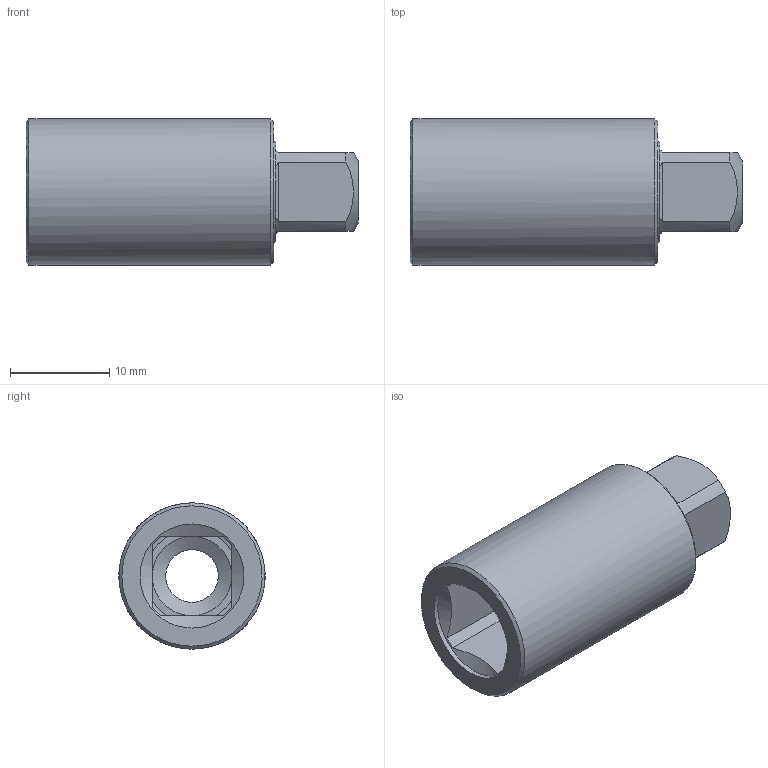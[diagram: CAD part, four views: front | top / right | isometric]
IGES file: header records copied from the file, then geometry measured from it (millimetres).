
Global section: file name: 2028818_A_PSEN ml DHM extension; native system: Autodesk Inventor 2020; preprocessor: unknown; author: jebe; date: 20200127.083531; units: millimetre
Bounding box: 33.5 x 14.73 x 14.75 mm (x, y, z)
Volume: 3165.7 mm3; surface area: 2488 mm2
Topology: 1 solids, 1 shells, 44 faces, 119 edges, 80 vertices
Faces by surface type: bspline 44
